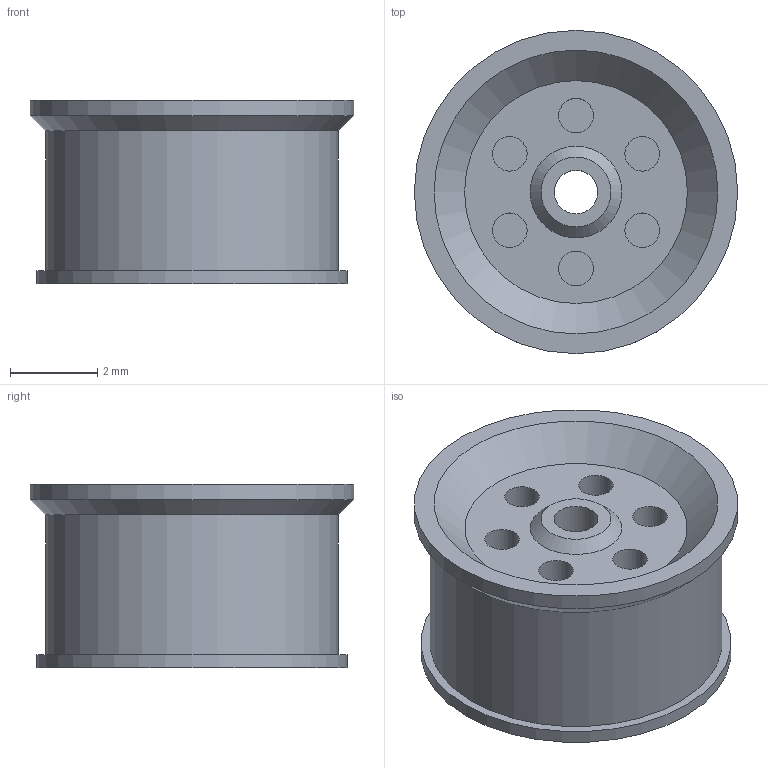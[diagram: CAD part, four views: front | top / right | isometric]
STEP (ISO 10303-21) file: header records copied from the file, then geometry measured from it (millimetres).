
FILE_DESCRIPTION(('Open CASCADE Model'),'2;1');
FILE_NAME('Open CASCADE Shape Model','2026-10-09T16:33:00',('Author'),( 'Open CASCADE'),'Open CASCADE STEP processor 8.0','build123d', 'Unknown');
FILE_SCHEMA(('AUTOMOTIVE_DESIGN { 1 0 10303 214 1 1 1 1 }'));
Length unit declared in the file: millimetre
Products named in the file (1): COMPOUND
Bounding box: 7.4 x 7.4 x 4.2 mm (x, y, z)
Volume: 129 mm3; surface area: 214.1 mm2
Topology: 1 solids, 1 shells, 24 faces, 37 edges, 24 vertices
Faces by surface type: plane 11, cylinder 10, cone 3
Full cylindrical faces by diameter (mm): 0.792 x6, 1 x1, 6.7 x1, 7.1 x1, 7.4 x1
Entity records: 1061 total; most frequent: CARTESIAN_POINT 197, DIRECTION 178, ORIENTED_EDGE 74, PCURVE 74, DEFINITIONAL_REPRESENTATION 74, LINE 64, VECTOR 64, AXIS2_PLACEMENT_3D 49
